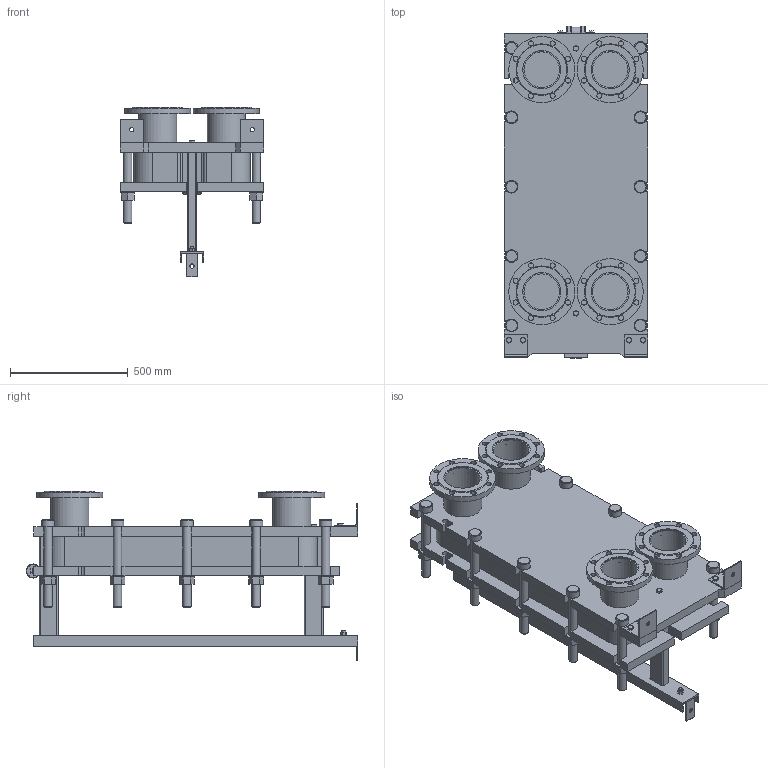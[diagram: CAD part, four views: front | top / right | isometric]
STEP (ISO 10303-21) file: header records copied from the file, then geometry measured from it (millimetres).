
FILE_DESCRIPTION(/* description */ (''),/* implementation_level */ '2;1');
FILE_NAME(/* name */ 'C:\Users\zhuro\Desktop\ENCO\TO\ЭН-041\ЭН-0,5-041-37-1.stp',/* time_stamp */ '2022-06-06T10:51:32+03:00',/* author */ ('zhuro'),/* organization */ (''),/* preprocessor_version */ 'ST-DEVELOPER v18.1',/* originating_system */ 'Autodesk Inventor 2022',/* authorisation */ '');
FILE_SCHEMA (('AUTOMOTIVE_DESIGN { 1 0 10303 214 3 1 1 }'));
Length unit declared in the file: millimetre
Products named in the file (1): ЭН-0,5-041-37-1
Bounding box: 610 x 1406.5 x 717.5 mm (x, y, z)
Volume: 147841099.3 mm3; surface area: 7635412.8 mm2
Topology: 52 solids, 52 shells, 711 faces, 1696 edges, 1094 vertices
Faces by surface type: plane 487, cylinder 177, cone 41, torus 6
Full cylindrical faces by diameter (mm): 8 x4, 10 x2, 16 x8, 18 x3, 22 x32, 36 x24, 50 x1, 54 x10, 60 x12, 151 x4, 161 x8, 280 x4
Entity records: 22667 total; most frequent: CARTESIAN_POINT 5230, DIRECTION 3644, ORIENTED_EDGE 3392, EDGE_CURVE 1696, AXIS2_PLACEMENT_3D 1272, LINE 1100, VECTOR 1100, VERTEX_POINT 1094
